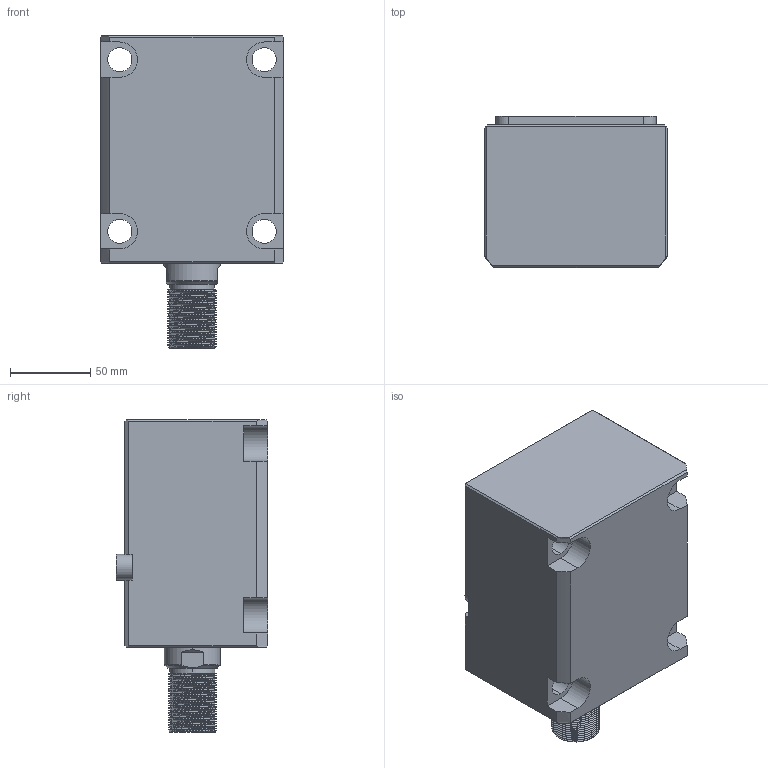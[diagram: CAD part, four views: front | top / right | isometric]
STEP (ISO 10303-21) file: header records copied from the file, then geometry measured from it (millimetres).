
FILE_DESCRIPTION (( 'STEP AP214' ), '1' );
FILE_NAME ('chtb-lam63x75w_asm.STEP', '2018-05-22T03:40:41', ( 'Windows' ), ( 'Microsoft' ), 'SwSTEP 2.0', 'SolidWorks 2015', '' );
FILE_SCHEMA (( 'AUTOMOTIVE_DESIGN' ));
Length unit declared in the file: millimetre
Products named in the file (5): CHTB-LAM63X75NBT; CHTB-LA63PJ; CHTB63X75WHSG; CHTB-63QG; chtb-lam63x75w_asm
Assembly tree (4 placements, depth 2):
  chtb-lam63x75w_asm
    CHTB-63QG
    CHTB63X75WHSG
    CHTB-LA63PJ
    CHTB-LAM63X75NBT
Bounding box: 114 x 94.5 x 195 mm (x, y, z)
Volume: 1240601.2 mm3; surface area: 173593.2 mm2
Topology: 4 solids, 4 shells, 236 faces, 696 edges, 473 vertices
Faces by surface type: cylinder 148, plane 58, bspline 15, cone 9, torus 6
Entity records: 23566 total; most frequent: CARTESIAN_POINT 17780, ORIENTED_EDGE 1384, DIRECTION 946, EDGE_CURVE 692, VERTEX_POINT 473, AXIS2_PLACEMENT_3D 344, EDGE_LOOP 259, VECTOR 258
